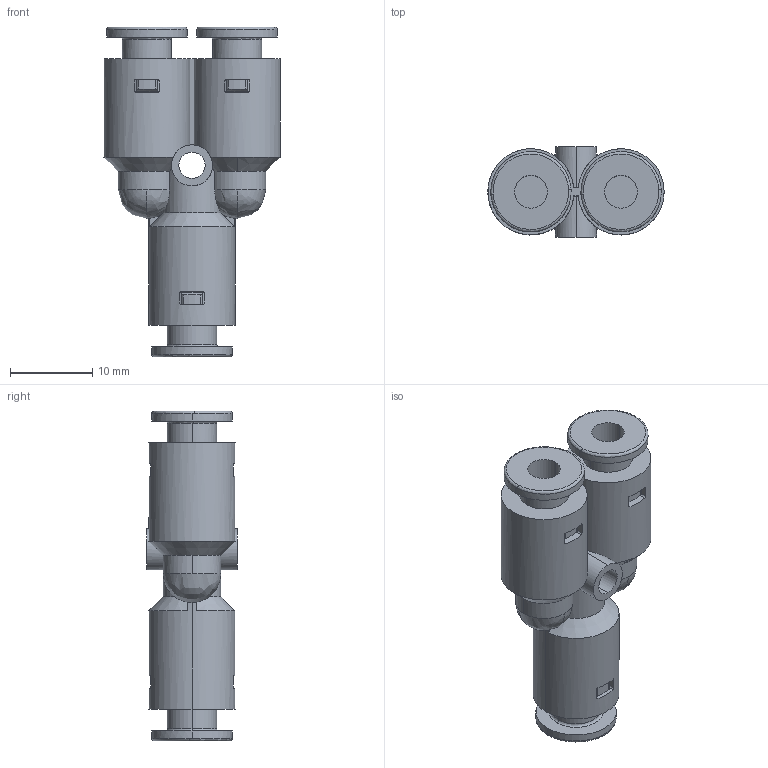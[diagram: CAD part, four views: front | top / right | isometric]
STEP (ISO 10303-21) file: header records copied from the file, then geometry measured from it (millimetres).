
FILE_DESCRIPTION (( 'STEP AP214' ), '1' );
FILE_NAME ('KQ2U04-00A.STEP', '2023-03-06T08:56:30', ( 'Windows User' ), ( 'P R C' ), 'SwSTEP 2.0', 'SolidWorks 2019', '' );
FILE_SCHEMA (( 'AUTOMOTIVE_DESIGN' ));
Length unit declared in the file: millimetre
Products named in the file (1): KQ2U04-00A
Bounding box: 21.5 x 11 x 40.2 mm (x, y, z)
Volume: 3771.7 mm3; surface area: 3350.6 mm2
Topology: 1 solids, 1 shells, 167 faces, 466 edges, 308 vertices
Faces by surface type: cylinder 82, plane 55, bspline 16, cone 14
Entity records: 6515 total; most frequent: CARTESIAN_POINT 2371, ORIENTED_EDGE 916, DIRECTION 802, EDGE_CURVE 458, AXIS2_PLACEMENT_3D 318, VERTEX_POINT 308, EDGE_LOOP 184, FACE_OUTER_BOUND 167
